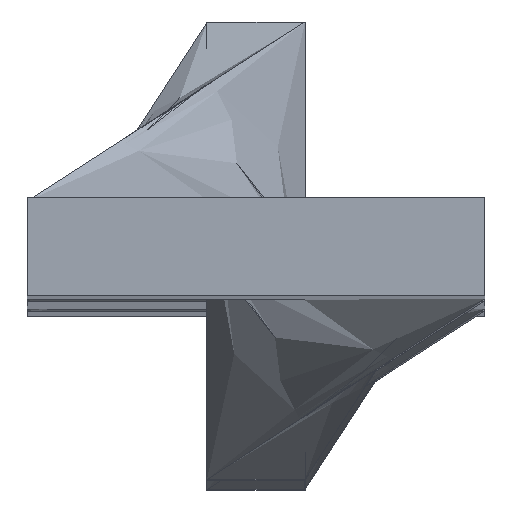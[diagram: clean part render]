
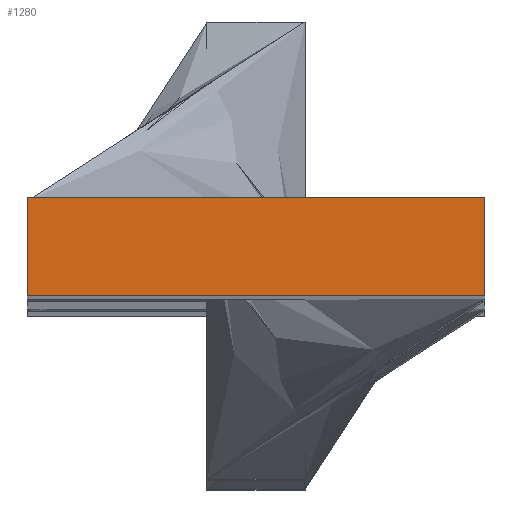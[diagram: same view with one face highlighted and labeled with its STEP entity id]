
A CAD part, top view. The second image highlights one B-rep face of the part: STEP entity #1280.
In plain terms, the highlighted planar face has unit normal (0, 0, 1).
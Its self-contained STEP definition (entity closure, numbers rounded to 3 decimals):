
#147 = PLANE ( 'NONE',  #1238 ) ;
#150 = CARTESIAN_POINT ( 'NONE',  ( 0., 0., 358.5 ) ) ;
#156 = DIRECTION ( 'NONE',  ( 0., 0., 1. ) ) ;
#157 = DIRECTION ( 'NONE',  ( 1., 0., 0. ) ) ;
#444 = ORIENTED_EDGE ( 'NONE', *, *, #1191, .T. ) ;
#445 = ORIENTED_EDGE ( 'NONE', *, *, #1161, .T. ) ;
#446 = ORIENTED_EDGE ( 'NONE', *, *, #1148, .T. ) ;
#447 = ORIENTED_EDGE ( 'NONE', *, *, #1142, .T. ) ;
#457 = LINE ( 'NONE', #1105, #461 ) ;
#461 = VECTOR ( 'NONE', #1103, 1000. ) ;
#473 = LINE ( 'NONE', #1100, #474 ) ;
#474 = VECTOR ( 'NONE', #1098, 1000. ) ;
#494 = LINE ( 'NONE', #1075, #499 ) ;
#499 = VECTOR ( 'NONE', #1106, 1000. ) ;
#546 = LINE ( 'NONE', #806, #547 ) ;
#547 = VECTOR ( 'NONE', #807, 1000. ) ;
#650 = EDGE_LOOP ( 'NONE', ( #444, #445, #446, #447 ) ) ;
#806 = CARTESIAN_POINT ( 'NONE',  ( 0., 3., 358.5 ) ) ;
#807 = DIRECTION ( 'NONE',  ( 0., -1., 0. ) ) ;
#931 = FACE_OUTER_BOUND ( 'NONE', #650, .T. ) ;
#1022 = VERTEX_POINT ( 'NONE', #1059 ) ;
#1027 = VERTEX_POINT ( 'NONE', #1056 ) ;
#1034 = VERTEX_POINT ( 'NONE', #1047 ) ;
#1036 = VERTEX_POINT ( 'NONE', #1068 ) ;
#1047 = CARTESIAN_POINT ( 'NONE',  ( 14., 3., 358.5 ) ) ;
#1056 = CARTESIAN_POINT ( 'NONE',  ( 14., 0., 358.5 ) ) ;
#1059 = CARTESIAN_POINT ( 'NONE',  ( 0., 3., 358.5 ) ) ;
#1068 = CARTESIAN_POINT ( 'NONE',  ( 0., 0., 358.5 ) ) ;
#1075 = CARTESIAN_POINT ( 'NONE',  ( 0., 0., 358.5 ) ) ;
#1098 = DIRECTION ( 'NONE',  ( 0., 1., 0. ) ) ;
#1100 = CARTESIAN_POINT ( 'NONE',  ( 14., 3., 358.5 ) ) ;
#1103 = DIRECTION ( 'NONE',  ( -1., 0., 0. ) ) ;
#1105 = CARTESIAN_POINT ( 'NONE',  ( 0., 3., 358.5 ) ) ;
#1106 = DIRECTION ( 'NONE',  ( 1., 0., 0. ) ) ;
#1142 = EDGE_CURVE ( 'NONE', #1034, #1022, #457, .T. ) ;
#1148 = EDGE_CURVE ( 'NONE', #1027, #1034, #473, .T. ) ;
#1161 = EDGE_CURVE ( 'NONE', #1036, #1027, #494, .T. ) ;
#1191 = EDGE_CURVE ( 'NONE', #1022, #1036, #546, .T. ) ;
#1238 = AXIS2_PLACEMENT_3D ( 'NONE', #150, #156, #157 ) ;
#1280 = ADVANCED_FACE ( 'NONE', ( #931 ), #147, .T. ) ;
